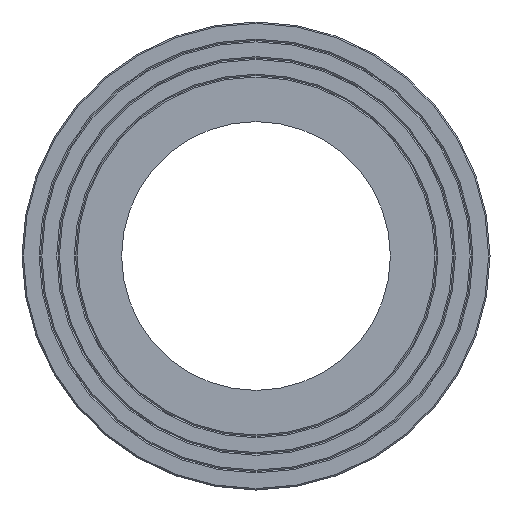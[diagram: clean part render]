
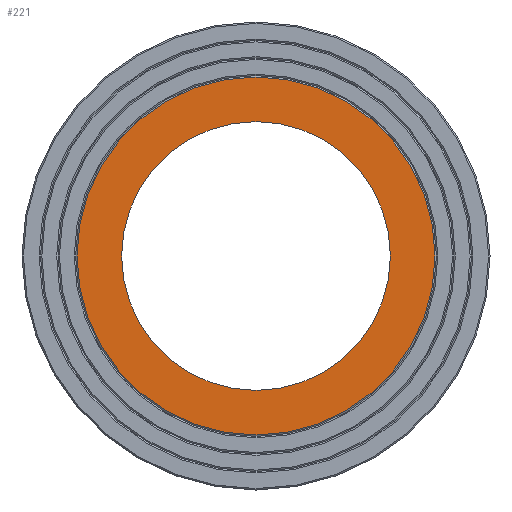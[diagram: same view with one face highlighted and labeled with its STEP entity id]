
A CAD part, left-side view. The second image highlights one B-rep face of the part: STEP entity #221.
In plain terms, the highlighted planar face has unit normal (-1, 0, 0).
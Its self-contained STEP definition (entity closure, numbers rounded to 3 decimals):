
#36=ORIENTED_EDGE('',*,*,#76,.F.);
#37=ORIENTED_EDGE('',*,*,#77,.T.);
#76=EDGE_CURVE('',#96,#96,#116,.T.);
#77=EDGE_CURVE('',#97,#97,#117,.T.);
#96=VERTEX_POINT('',#383);
#97=VERTEX_POINT('',#385);
#116=CIRCLE('',#257,145.3);
#117=CIRCLE('',#258,193.5);
#136=EDGE_LOOP('',(#36));
#137=EDGE_LOOP('',(#37));
#176=FACE_BOUND('',#136,.T.);
#177=FACE_BOUND('',#137,.T.);
#215=PLANE('',#256);
#221=ADVANCED_FACE('',(#176,#177),#215,.F.);
#256=AXIS2_PLACEMENT_3D('',#381,#301,#302);
#257=AXIS2_PLACEMENT_3D('',#382,#303,#304);
#258=AXIS2_PLACEMENT_3D('',#384,#305,#306);
#301=DIRECTION('',(1.,0.,0.));
#302=DIRECTION('',(0.,0.,-1.));
#303=DIRECTION('',(-1.,0.,0.));
#304=DIRECTION('',(0.,0.,1.));
#305=DIRECTION('',(-1.,0.,0.));
#306=DIRECTION('',(0.,0.,1.));
#381=CARTESIAN_POINT('',(0.,0.,253.));
#382=CARTESIAN_POINT('',(0.,0.,0.));
#383=CARTESIAN_POINT('',(0.,0.,145.3));
#384=CARTESIAN_POINT('',(0.,0.,0.));
#385=CARTESIAN_POINT('',(0.,0.,193.5));
